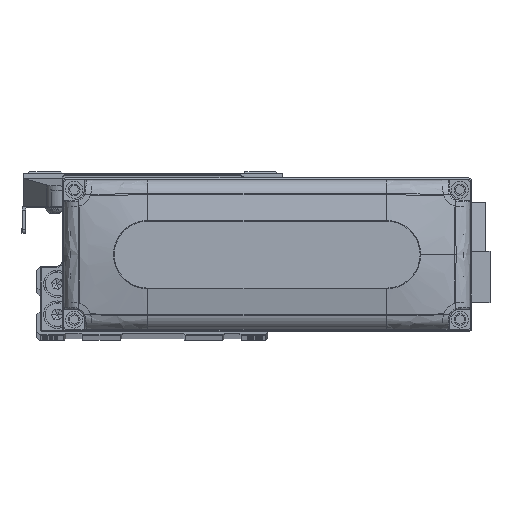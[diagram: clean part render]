
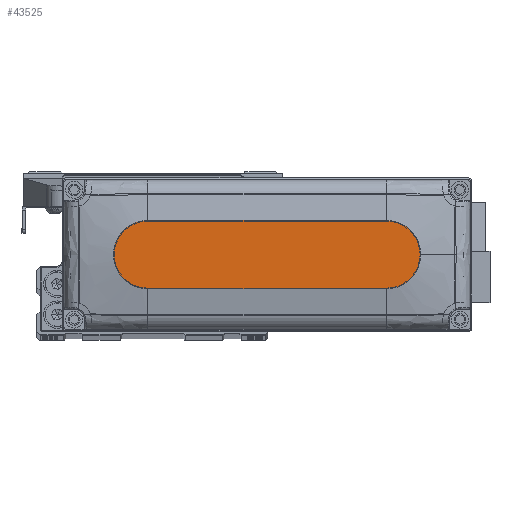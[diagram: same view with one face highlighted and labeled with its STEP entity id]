
A CAD part, top view. The second image highlights one B-rep face of the part: STEP entity #43525.
In plain terms, the highlighted planar face has unit normal (0, 0, 1).
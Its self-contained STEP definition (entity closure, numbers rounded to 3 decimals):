
#2519 = FACE_OUTER_BOUND ( 'NONE', #33966, .T. ) ;
#2528 = EDGE_CURVE ( 'NONE', #11565, #5185, #22420, .T. ) ;
#4349 = DIRECTION ( 'NONE',  ( 1., 0., 0. ) ) ;
#4895 = CARTESIAN_POINT ( 'NONE',  ( -35., 10., 28. ) ) ;
#5185 = VERTEX_POINT ( 'NONE', #13497 ) ;
#5340 = DIRECTION ( 'NONE',  ( 0., 0., 1. ) ) ;
#5840 = VERTEX_POINT ( 'NONE', #41011 ) ;
#7380 = AXIS2_PLACEMENT_3D ( 'NONE', #27387, #41896, #9315 ) ;
#7911 = CARTESIAN_POINT ( 'NONE',  ( 45., 0., 28. ) ) ;
#8306 = EDGE_CURVE ( 'NONE', #5185, #12193, #18951, .T. ) ;
#8534 = EDGE_CURVE ( 'NONE', #33854, #11565, #15917, .T. ) ;
#9226 = VECTOR ( 'NONE', #19401, 1000. ) ;
#9315 = DIRECTION ( 'NONE',  ( 1., 0., 0. ) ) ;
#11565 = VERTEX_POINT ( 'NONE', #31059 ) ;
#12193 = VERTEX_POINT ( 'NONE', #7911 ) ;
#13455 = DIRECTION ( 'NONE',  ( 1., 0., 0. ) ) ;
#13497 = CARTESIAN_POINT ( 'NONE',  ( 35., -10., 28. ) ) ;
#14053 = ORIENTED_EDGE ( 'NONE', *, *, #8306, .T. ) ;
#14354 = DIRECTION ( 'NONE',  ( 1., 0., 0. ) ) ;
#15917 = CIRCLE ( 'NONE', #42518, 10. ) ;
#17017 = PLANE ( 'NONE',  #40938 ) ;
#17870 = ORIENTED_EDGE ( 'NONE', *, *, #8534, .T. ) ;
#18767 = ORIENTED_EDGE ( 'NONE', *, *, #21592, .T. ) ;
#18951 = CIRCLE ( 'NONE', #45554, 10. ) ;
#19401 = DIRECTION ( 'NONE',  ( -1., 0., 0. ) ) ;
#19840 = DIRECTION ( 'NONE',  ( 1., 0., 0. ) ) ;
#21592 = EDGE_CURVE ( 'NONE', #5840, #33854, #37470, .T. ) ;
#21898 = ORIENTED_EDGE ( 'NONE', *, *, #2528, .T. ) ;
#22420 = LINE ( 'NONE', #36925, #34708 ) ;
#26987 = CARTESIAN_POINT ( 'NONE',  ( -35., 10., 28. ) ) ;
#27387 = CARTESIAN_POINT ( 'NONE',  ( 35., 0., 28. ) ) ;
#27858 = CIRCLE ( 'NONE', #7380, 10. ) ;
#29440 = EDGE_CURVE ( 'NONE', #12193, #5840, #27858, .T. ) ;
#30925 = ORIENTED_EDGE ( 'NONE', *, *, #29440, .T. ) ;
#31059 = CARTESIAN_POINT ( 'NONE',  ( -35., -10., 28. ) ) ;
#31521 = CARTESIAN_POINT ( 'NONE',  ( 0., 0., 28. ) ) ;
#32431 = CARTESIAN_POINT ( 'NONE',  ( -35., 0., 28. ) ) ;
#33854 = VERTEX_POINT ( 'NONE', #26987 ) ;
#33966 = EDGE_LOOP ( 'NONE', ( #18767, #17870, #21898, #14053, #30925 ) ) ;
#34708 = VECTOR ( 'NONE', #4349, 1000. ) ;
#36925 = CARTESIAN_POINT ( 'NONE',  ( -35., -10., 28. ) ) ;
#37470 = LINE ( 'NONE', #4895, #9226 ) ;
#37909 = CARTESIAN_POINT ( 'NONE',  ( 35., 0., 28. ) ) ;
#40938 = AXIS2_PLACEMENT_3D ( 'NONE', #31521, #46069, #13455 ) ;
#41011 = CARTESIAN_POINT ( 'NONE',  ( 35., 10., 28. ) ) ;
#41896 = DIRECTION ( 'NONE',  ( 0., 0., 1. ) ) ;
#42518 = AXIS2_PLACEMENT_3D ( 'NONE', #32431, #46975, #14354 ) ;
#43525 = ADVANCED_FACE ( 'NONE', ( #2519 ), #17017, .T. ) ;
#45554 = AXIS2_PLACEMENT_3D ( 'NONE', #37909, #5340, #19840 ) ;
#46069 = DIRECTION ( 'NONE',  ( 0., 0., 1. ) ) ;
#46975 = DIRECTION ( 'NONE',  ( 0., 0., 1. ) ) ;
